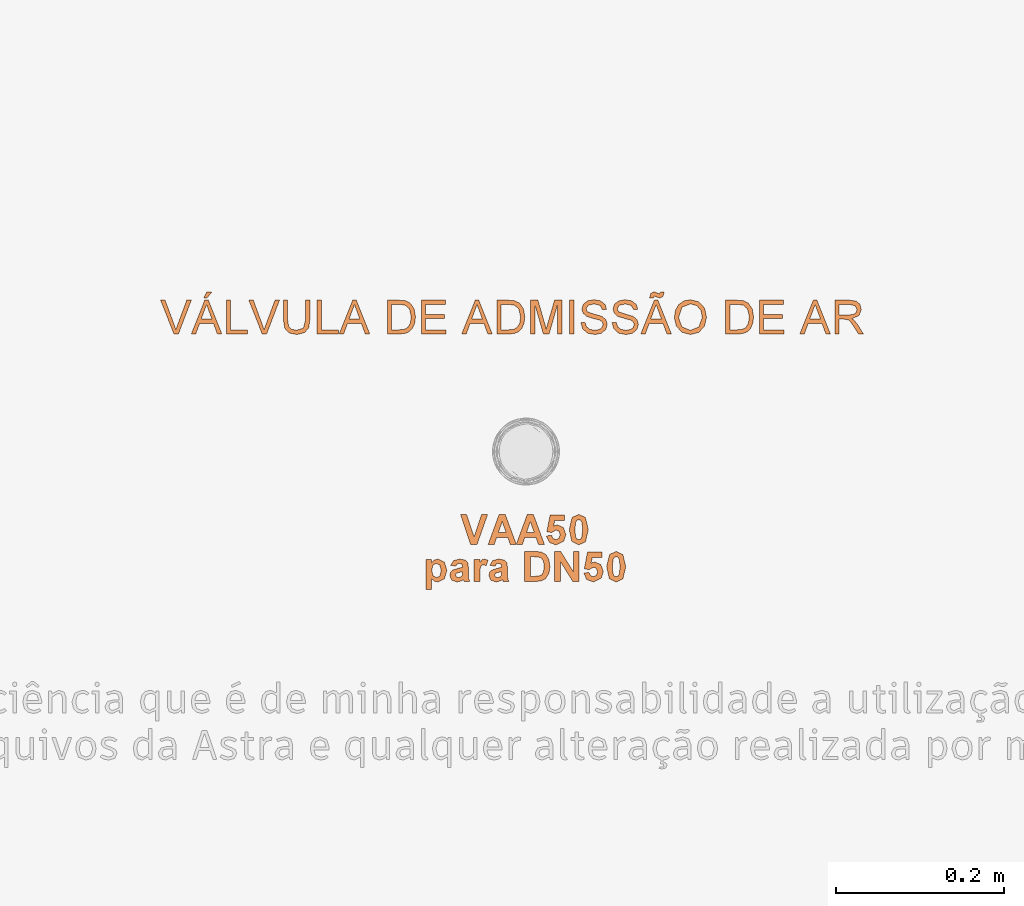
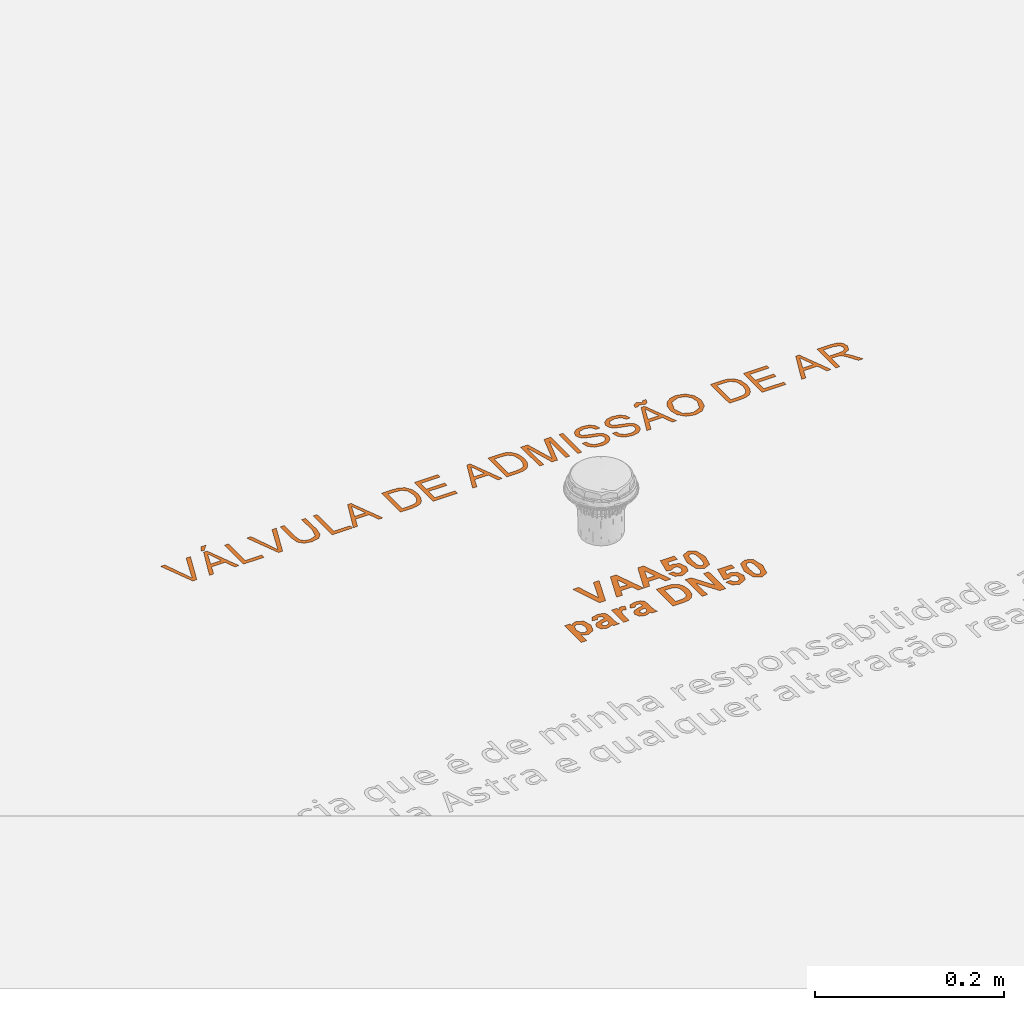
# One storey, part 2 of 2: 2 proxies.
"""IFC2X3 building model written with IfcOpenShell, lengths in millimetres."""

from ifc_helpers import new_model, entity, si_unit, converted_unit, derived_unit, direction, frame, origin, place, context, subcontext, project, spatial, face_set, surface_model, type_object, element, save


model = new_model("IFC2X3")

# Units and contexts
model_context = context("Model", 3, precision=0.01, world=origin(), true_north=direction((6.12303176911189e-17, 1.0)))
body_context = subcontext(model_context, "Body", "Model", "MODEL_VIEW")
ifc_project = project(units=[si_unit("LENGTHUNIT", "METRE", prefix="MILLI"), si_unit("AREAUNIT", "SQUARE_METRE"), si_unit("VOLUMEUNIT", "CUBIC_METRE"), converted_unit("PLANEANGLEUNIT", "DEGREE", entity("IfcRatioMeasure", 0.0174532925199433), si_unit("PLANEANGLEUNIT", "RADIAN"), dimensions=[0, 0, 0, 0, 0, 0, 0]), si_unit("MASSUNIT", "GRAM", prefix="KILO"), derived_unit("MASSDENSITYUNIT", [(si_unit("MASSUNIT", "GRAM", prefix="KILO"), 1), (si_unit("LENGTHUNIT", "METRE"), -3)]), derived_unit("MOMENTOFINERTIAUNIT", [(si_unit("LENGTHUNIT", "METRE"), 4)]), si_unit("TIMEUNIT", "SECOND"), si_unit("FREQUENCYUNIT", "HERTZ"), si_unit("THERMODYNAMICTEMPERATUREUNIT", "DEGREE_CELSIUS"), derived_unit("THERMALTRANSMITTANCEUNIT", [(si_unit("MASSUNIT", "GRAM", prefix="KILO"), 1), (si_unit("THERMODYNAMICTEMPERATUREUNIT", "KELVIN"), -1), (si_unit("TIMEUNIT", "SECOND"), -3)]), derived_unit("VOLUMETRICFLOWRATEUNIT", [(si_unit("LENGTHUNIT", "METRE"), 3), (si_unit("TIMEUNIT", "SECOND"), -1)]), si_unit("ELECTRICCURRENTUNIT", "AMPERE"), si_unit("ELECTRICVOLTAGEUNIT", "VOLT"), si_unit("POWERUNIT", "WATT"), si_unit("FORCEUNIT", "NEWTON", prefix="KILO"), si_unit("ILLUMINANCEUNIT", "LUX"), si_unit("LUMINOUSFLUXUNIT", "LUMEN"), si_unit("LUMINOUSINTENSITYUNIT", "CANDELA"), derived_unit("USERDEFINED", [(si_unit("MASSUNIT", "GRAM", prefix="KILO"), -1), (si_unit("LENGTHUNIT", "METRE"), -2), (si_unit("TIMEUNIT", "SECOND"), 3), (si_unit("LUMINOUSFLUXUNIT", "LUMEN"), 1)]), derived_unit("LINEARVELOCITYUNIT", [(si_unit("LENGTHUNIT", "METRE"), 1), (si_unit("TIMEUNIT", "SECOND"), -1)]), si_unit("PRESSUREUNIT", "PASCAL"), derived_unit("USERDEFINED", [(si_unit("LENGTHUNIT", "METRE"), -2), (si_unit("MASSUNIT", "GRAM", prefix="KILO"), 1), (si_unit("TIMEUNIT", "SECOND"), -2)]), derived_unit("LINEARFORCEUNIT", [(si_unit("MASSUNIT", "GRAM", prefix="KILO"), 1), (si_unit("LENGTHUNIT", "METRE"), 1), (si_unit("TIMEUNIT", "SECOND"), -2), (si_unit("LENGTHUNIT", "METRE"), -1)]), derived_unit("PLANARFORCEUNIT", [(si_unit("MASSUNIT", "GRAM", prefix="KILO"), 1), (si_unit("LENGTHUNIT", "METRE"), 1), (si_unit("TIMEUNIT", "SECOND"), -2), (si_unit("LENGTHUNIT", "METRE"), -2)])], contexts=[model_context])

# Site, building, storey
site_placement = place(None, origin())
site = spatial("IfcSite", under=ifc_project, at=site_placement, Name="Default", CompositionType="ELEMENT")
building_placement = place(site_placement, origin())
building = spatial("IfcBuilding", under=site, at=building_placement, CompositionType="ELEMENT")
storey_placement = place(building_placement, origin())
storey = spatial("IfcBuildingStorey", under=building, at=storey_placement, Name="Vista Principal", CompositionType="ELEMENT", Elevation=0.0)

# Proxies
building_element_proxy_type_1 = type_object("IfcBuildingElementProxyType", Name="Texto do modelo:600mm Arial", PredefinedType="NOTDEFINED")
proxy_1_placement = place(storey_placement, frame((49.7769924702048, 283.731562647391, 0.0)))
element("IfcBuildingElementProxy", 1, at=proxy_1_placement, inside=storey, type_object=building_element_proxy_type_1, Name="Texto do modelo:600mm Arial", ObjectType="Texto do modelo:600mm Arial", context=body_context, shape_type="SurfaceModel", body=[
    surface_model("IfcFaceBasedSurfaceModel", [(53.1296539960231, 53.7047556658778, 0.0), (60.728460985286, 53.7047556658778, 0.0), (73.4019957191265, 89.4138346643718, 0.0), (66.2548660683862, 89.4138346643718, 0.0), (57.2478885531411, 62.7737281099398, 0.0), (48.2674802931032, 89.4138346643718, 0.0), (41.0937813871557, 89.4138346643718, 0.0), (107.410642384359, 53.7047556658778, 0.0), (94.2500046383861, 89.4138346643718, 0.0), (87.0054543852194, 89.4138346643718, 0.0), (73.9688064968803, 53.7047556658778, 0.0), (81.213356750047, 53.7047556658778, 0.0), (83.9765592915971, 61.640106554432, 0.0), (97.4648845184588, 61.640106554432, 0.0), (100.263512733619, 53.7047556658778, 0.0), (95.2862055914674, 67.8750251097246, 0.0), (86.1552382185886, 67.8750251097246, 0.0), (90.6897244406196, 80.9116729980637, 0.0), (143.119721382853, 63.7567905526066, 0.0), (146.728711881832, 56.0162808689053, 0.0), (154.526788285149, 53.1379448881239, 0.0), (163.888022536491, 57.7255696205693, 0.0), (166.358963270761, 65.3686587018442, 0.0), (163.392063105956, 73.7246894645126, 0.0), (156.165225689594, 76.9439975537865, 0.0), (151.781298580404, 75.5535398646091, 0.0), (153.154043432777, 82.0452945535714, 0.0), (164.6585309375, 82.0452945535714, 0.0), (164.6585309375, 88.8470238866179, 0.0), (147.654207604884, 88.8470238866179, 0.0), (143.686532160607, 68.7518105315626, 0.0), (149.584906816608, 67.8750251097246, 0.0), (154.562213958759, 70.709078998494, 0.0), (158.171204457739, 69.3363341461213, 0.0), (159.557233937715, 65.2180995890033, 0.0), (158.06492743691, 60.829744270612, 0.0), (154.420511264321, 59.3728634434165, 0.0), (151.090497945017, 60.7456082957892, 0.0), (149.354639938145, 64.4741604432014, 0.0), (181.662854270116, 89.4138346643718, 0.0), (173.754072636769, 85.782703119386, 0.0), (170.326638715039, 71.3378847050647, 0.0), (173.448526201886, 57.1233331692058, 0.0), (181.662854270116, 53.1379448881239, 0.0), (189.571635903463, 56.7690764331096, 0.0), (192.999069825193, 71.2670333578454, 0.0), (189.589348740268, 85.7295646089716, 0.0), (181.662854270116, 83.1789161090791, 0.0), (183.916812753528, 82.430548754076, 0.0), (185.550821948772, 79.4503639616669, 0.0), (186.197340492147, 71.2670333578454, 0.0), (185.47111418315, 62.8091537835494, 0.0), (183.930097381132, 60.1212307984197, 0.0), (181.662854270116, 59.3728634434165, 0.0), (179.408895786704, 60.1123743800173, 0.0), (177.774886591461, 63.0792745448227, 0.0), (177.128368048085, 71.2670333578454, 0.0), (177.854594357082, 79.7426257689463, 0.0), (179.395611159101, 82.430548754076, 0.0), (0.0, 35.709078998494, 0.0), (0.0, 0.0, 0.0), (6.80172933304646, 0.0, 0.0), (6.80172933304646, 12.7975245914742, 0.0), (10.4151480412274, 9.91033219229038, 0.0), (14.2499772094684, 9.06897244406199, 0.0), (21.8177867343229, 12.6823911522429, 0.0), (24.9396742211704, 22.8229902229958, 0.0), (21.9152073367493, 32.7200377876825, 0.0), (14.5599518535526, 36.2758897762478, 0.0), (10.034322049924, 35.0802732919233, 0.0), (6.80172933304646, 31.9539575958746, 0.0), (6.80172933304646, 35.709078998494, 0.0), (6.80172933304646, 23.1241084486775, 0.0), (8.43573852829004, 29.1420447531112, 0.0), (12.5406884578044, 31.174592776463, 0.0), (16.5305049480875, 29.1021908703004, 0.0), (18.1379448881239, 22.7609952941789, 0.0), (16.5747870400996, 16.1762482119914, 0.0), (12.6646783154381, 14.1702694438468, 0.0), (8.50658987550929, 16.3578047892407, 0.0), (35.7090789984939, 27.7737281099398, 0.0), (37.1438187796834, 30.4217972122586, 0.0), (39.6147595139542, 31.174592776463, 0.0), (42.7986419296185, 30.297807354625, 0.0), (43.6444298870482, 26.640106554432, 0.0), (37.3120907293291, 24.9485306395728, 0.0), (32.1310859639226, 23.3455189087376, 0.0), (29.3368859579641, 20.6974498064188, 0.0), (28.3405388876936, 16.7652000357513, 0.0), (30.5767845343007, 11.2520795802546, 0.0), (36.6921414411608, 9.06897244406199, 0.0), (40.8280888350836, 9.967898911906, 0.0), (44.7072000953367, 11.7967493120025, 0.0), (45.3448622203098, 9.63578322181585, 0.0), (52.1465915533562, 9.63578322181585, 0.0), (50.804844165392, 13.1340684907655, 0.0), (50.4461592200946, 18.1999398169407, 0.0), (50.4461592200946, 26.2415677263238, 0.0), (49.578230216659, 32.4100631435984, 0.0), (46.5847607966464, 35.1821221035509, 0.0), (40.1107189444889, 36.2758897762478, 0.0), (32.8971661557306, 34.4691804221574, 0.0), (29.4741604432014, 28.9073496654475, 0.0), (43.6444298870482, 20.9232884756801, 0.0), (43.3964501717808, 17.3054415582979, 0.0), (41.8908590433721, 15.2684653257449, 0.0), (38.6405534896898, 14.1702694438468, 0.0), (36.1297588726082, 15.1134780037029, 0.0), (35.1422682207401, 17.34972365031, 0.0), (36.3733103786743, 19.519546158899, 0.0), (39.8096007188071, 20.5956009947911, 0.0), (64.0496178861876, 9.63578322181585, 0.0), (64.0496178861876, 17.438287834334, 0.0), (64.6120004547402, 25.9050238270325, 0.0), (66.1530172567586, 28.699223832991, 0.0), (68.5486784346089, 29.4741604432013, 0.0), (71.7015633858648, 28.3671081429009, 0.0), (73.6854011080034, 34.8411499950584, 0.0), (69.514028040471, 36.2758897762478, 0.0), (66.7685383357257, 35.4655274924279, 0.0), (64.0496178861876, 32.0779474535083, 0.0), (64.0496178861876, 35.709078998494, 0.0), (57.2478885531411, 35.709078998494, 0.0), (57.2478885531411, 9.63578322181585, 0.0), (82.1875627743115, 27.7737281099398, 0.0), (83.622302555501, 30.4217972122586, 0.0), (86.0932432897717, 31.174592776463, 0.0), (89.2771257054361, 30.297807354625, 0.0), (90.1229136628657, 26.640106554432, 0.0), (83.7905745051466, 24.9485306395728, 0.0), (78.6095697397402, 23.3455189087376, 0.0), (75.8153697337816, 20.6974498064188, 0.0), (74.8190226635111, 16.7652000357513, 0.0), (77.0552683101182, 11.2520795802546, 0.0), (83.1706252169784, 9.06897244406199, 0.0), (87.3065726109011, 9.967898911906, 0.0), (91.1856838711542, 11.7967493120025, 0.0), (91.8233459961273, 9.63578322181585, 0.0), (98.6250753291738, 9.63578322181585, 0.0), (97.2833279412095, 13.1340684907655, 0.0), (96.9246429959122, 18.1999398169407, 0.0), (96.9246429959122, 26.2415677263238, 0.0), (96.0567139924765, 32.4100631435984, 0.0), (93.0632445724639, 35.1821221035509, 0.0), (86.5892027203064, 36.2758897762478, 0.0), (79.3756499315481, 34.4691804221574, 0.0), (75.9526442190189, 28.9073496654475, 0.0), (90.1229136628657, 20.9232884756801, 0.0), (89.8749339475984, 17.3054415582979, 0.0), (88.3693428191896, 15.2684653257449, 0.0), (85.1190372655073, 14.1702694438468, 0.0), (82.6082426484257, 15.1134780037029, 0.0), (81.6207519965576, 17.34972365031, 0.0), (82.8517941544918, 19.519546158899, 0.0), (86.2880844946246, 20.5956009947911, 0.0), (117.329830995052, 45.3448622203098, 0.0), (117.329830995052, 9.63578322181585, 0.0), (130.942146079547, 9.63578322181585, 0.0), (137.345336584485, 10.3885787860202, 0.0), (142.428920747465, 13.2403455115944, 0.0), (146.272606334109, 19.5461154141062, 0.0), (147.370802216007, 27.1449224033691, 0.0), (146.197326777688, 35.5895173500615, 0.0), (142.774321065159, 41.3727585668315, 0.0), (137.371905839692, 44.6629180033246, 0.0), (130.552463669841, 45.3448622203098, 0.0), (124.131560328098, 39.1099436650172, 0.0), (127.620989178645, 39.1099436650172, 0.0), (133.988754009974, 38.7733997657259, 0.0), (137.580031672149, 37.1261059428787, 0.0), (139.780851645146, 33.7252412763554, 0.0), (140.56907288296, 27.4814663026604, 0.0), (139.780851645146, 21.0517065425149, 0.0), (137.748303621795, 17.6641265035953, 0.0), (134.617559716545, 16.2072456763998, 0.0), (129.92365796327, 15.8707017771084, 0.0), (124.131560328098, 15.8707017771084, 0.0), (153.038909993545, 9.63578322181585, 0.0), (159.840639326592, 9.63578322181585, 0.0), (159.840639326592, 33.3178460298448, 0.0), (174.595432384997, 9.63578322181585, 0.0), (181.946259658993, 9.63578322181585, 0.0), (181.946259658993, 45.3448622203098, 0.0), (175.144530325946, 45.3448622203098, 0.0), (175.144530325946, 21.3085426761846, 0.0), (160.168326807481, 45.3448622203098, 0.0), (153.038909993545, 45.3448622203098, 0.0), (187.614367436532, 19.6878181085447, 0.0), (191.223357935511, 11.9473084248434, 0.0), (199.021434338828, 9.06897244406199, 0.0), (208.38266859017, 13.6565971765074, 0.0), (210.85360932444, 21.2996862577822, 0.0), (207.886709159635, 29.6557170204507, 0.0), (200.659871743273, 32.8750251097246, 0.0), (196.275944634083, 31.4845674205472, 0.0), (197.648689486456, 37.9763221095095, 0.0), (209.153176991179, 37.9763221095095, 0.0), (209.153176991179, 44.7780514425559, 0.0), (192.148853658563, 44.7780514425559, 0.0), (188.181178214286, 24.6828380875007, 0.0), (194.079552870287, 23.8060526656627, 0.0), (199.056860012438, 26.640106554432, 0.0), (202.665850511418, 25.2673617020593, 0.0), (204.051879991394, 21.1491271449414, 0.0), (202.559573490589, 16.7607718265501, 0.0), (198.915157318, 15.3038909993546, 0.0), (195.585143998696, 16.6766358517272, 0.0), (193.849285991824, 20.4051879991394, 0.0), (226.157500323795, 45.3448622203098, 0.0), (218.248718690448, 41.713730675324, 0.0), (214.821284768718, 27.2689122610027, 0.0), (217.943172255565, 13.0543607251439, 0.0), (226.157500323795, 9.06897244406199, 0.0), (234.066281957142, 12.7001039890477, 0.0), (237.493715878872, 27.1980609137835, 0.0), (234.083994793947, 41.6605921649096, 0.0), (226.157500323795, 39.1099436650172, 0.0), (228.411458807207, 38.361576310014, 0.0), (230.045468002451, 35.381391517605, 0.0), (230.691986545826, 27.1980609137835, 0.0), (229.965760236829, 18.7401813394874, 0.0), (228.42474343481, 16.0522583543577, 0.0), (226.157500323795, 15.3038909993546, 0.0), (223.903541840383, 16.0434019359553, 0.0), (222.26953264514, 19.0103021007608, 0.0), (221.623014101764, 27.1980609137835, 0.0), (222.349240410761, 35.6736533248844, 0.0), (223.89025721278, 38.361576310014, 0.0), (140.852478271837, 53.7047556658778, 0.0), (127.691840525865, 89.4138346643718, 0.0), (120.447290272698, 89.4138346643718, 0.0), (107.410642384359, 53.7047556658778, 0.0), (114.655192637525, 53.7047556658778, 0.0), (117.418395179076, 61.640106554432, 0.0), (130.906720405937, 61.640106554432, 0.0), (133.705348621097, 53.7047556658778, 0.0), (128.728041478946, 67.8750251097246, 0.0), (119.597074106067, 67.8750251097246, 0.0), (124.131560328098, 80.9116729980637, 0.0)], [face_set([[[0, 1, 2, 3, 4, 5, 6]]]), face_set([[[7, 8, 9, 10, 11, 12, 13, 14], [15, 16, 17]]]), face_set([[[18, 19, 20, 21, 22, 23, 24, 25, 26, 27, 28, 29, 30, 31, 32, 33, 34, 35, 36, 37, 38]]]), face_set([[[39, 40, 41, 42, 43, 44, 45, 46], [47, 48, 49, 50, 51, 52, 53, 54, 55, 56, 57, 58]]]), face_set([[[59, 60, 61, 62, 63, 64, 65, 66, 67, 68, 69, 70, 71], [72, 73, 74, 75, 76, 77, 78, 79]]]), face_set([[[80, 81, 82, 83, 84, 85, 86, 87, 88, 89, 90, 91, 92, 93, 94, 95, 96, 97, 98, 99, 100, 101, 102], [103, 104, 105, 106, 107, 108, 109, 110]]]), face_set([[[111, 112, 113, 114, 115, 116, 117, 118, 119, 120, 121, 122, 123]]]), face_set([[[124, 125, 126, 127, 128, 129, 130, 131, 132, 133, 134, 135, 136, 137, 138, 139, 140, 141, 142, 143, 144, 145, 146], [147, 148, 149, 150, 151, 152, 153, 154]]]), face_set([[[155, 156, 157, 158, 159, 160, 161, 162, 163, 164, 165], [166, 167, 168, 169, 170, 171, 172, 173, 174, 175, 176]]]), face_set([[[177, 178, 179, 180, 181, 182, 183, 184, 185, 186]]]), face_set([[[187, 188, 189, 190, 191, 192, 193, 194, 195, 196, 197, 198, 199, 200, 201, 202, 203, 204, 205, 206, 207]]]), face_set([[[208, 209, 210, 211, 212, 213, 214, 215], [216, 217, 218, 219, 220, 221, 222, 223, 224, 225, 226, 227]]]), face_set([[[228, 229, 230, 231, 232, 233, 234, 235], [236, 237, 238]]])]),
])
building_element_proxy_type_2 = type_object("IfcBuildingElementProxyType", Name="Texto do modelo:TITULO", PredefinedType="NOTDEFINED")
proxy_2_placement = place(storey_placement, frame((-265.60650014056, 586.880934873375, 0.0)))
element("IfcBuildingElementProxy", 2, at=proxy_2_placement, inside=storey, type_object=building_element_proxy_type_2, Name="Texto do modelo:TITULO", ObjectType="Texto do modelo:TITULO", context=body_context, shape_type="SurfaceModel", body=[
    surface_model("IfcFaceBasedSurfaceModel", [(15.9906040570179, 0.627851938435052, 0.0), (21.1801927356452, 0.627851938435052, 0.0), (36.4938939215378, 40.8103759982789, 0.0), (31.1179116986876, 40.8103759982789, 0.0), (20.3855676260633, 11.8605155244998, 0.0), (18.2469469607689, 5.33674147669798, 0.0), (16.0788957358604, 11.8605155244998, 0.0), (5.37598222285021, 40.8103759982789, 0.0), (0.0, 40.8103759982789, 0.0), (78.206807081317, 0.627851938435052, 0.0), (103.320884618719, 0.627851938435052, 0.0), (103.320884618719, 5.65066744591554, 0.0), (83.2296225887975, 5.65066744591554, 0.0), (83.2296225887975, 40.8103759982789, 0.0), (78.206807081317, 40.8103759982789, 0.0), (120.841877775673, 0.627851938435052, 0.0), (126.0314664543, 0.627851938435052, 0.0), (141.345167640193, 40.8103759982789, 0.0), (135.969185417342, 40.8103759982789, 0.0), (125.236841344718, 11.8605155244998, 0.0), (123.098220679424, 5.33674147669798, 0.0), (120.930169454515, 11.8605155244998, 0.0), (110.227255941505, 40.8103759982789, 0.0), (104.851273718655, 40.8103759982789, 0.0), (172.384597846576, 40.8103759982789, 0.0), (172.384597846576, 17.8054885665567, 0.0), (169.843759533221, 7.66175568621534, 0.0), (161.338327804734, 5.02281550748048, 0.0), (155.432595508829, 6.35700087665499, 0.0), (152.028460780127, 10.1486379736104, 0.0), (151.037631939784, 17.8054885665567, 0.0), (151.037631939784, 40.8103759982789, 0.0), (146.014816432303, 40.8103759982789, 0.0), (146.014816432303, 17.6289052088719, 0.0), (147.54030043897, 7.56855891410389, 0.0), (152.631787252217, 1.94241693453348, 0.0), (161.80921675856, 0.0, 0.0), (171.128893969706, 2.23181743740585, 0.0), (176.043797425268, 8.01982749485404, 0.0), (177.407413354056, 17.6289052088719, 0.0), (177.407413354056, 40.8103759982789, 0.0), (186.197340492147, 0.627851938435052, 0.0), (211.311418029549, 0.627851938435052, 0.0), (211.311418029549, 5.65066744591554, 0.0), (191.220155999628, 5.65066744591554, 0.0), (191.220155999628, 40.8103759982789, 0.0), (186.197340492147, 40.8103759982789, 0.0), (212.282626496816, 0.627851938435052, 0.0), (217.5899374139, 0.627851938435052, 0.0), (222.181104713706, 13.1848907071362, 0.0), (238.730889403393, 13.1848907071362, 0.0), (243.331866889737, 0.627851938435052, 0.0), (248.639177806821, 0.627851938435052, 0.0), (232.599522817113, 40.8103759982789, 0.0), (228.322281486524, 40.8103759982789, 0.0), (224.025419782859, 18.2077062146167, 0.0), (227.959304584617, 28.9498604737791, 0.0), (230.460902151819, 35.7875604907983, 0.0), (233.276425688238, 28.0865640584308, 0.0), (236.896384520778, 18.2077062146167, 0.0), (269.70164830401, 0.627851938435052, 0.0), (284.230534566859, 0.627851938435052, 0.0), (290.690542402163, 1.31456499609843, 0.0), (295.492628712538, 3.3305583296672, 0.0), (299.161638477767, 6.97504262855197, 0.0), (301.908490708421, 12.8268188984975, 0.0), (302.977801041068, 20.934938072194, 0.0), (301.398361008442, 30.4900597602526, 0.0), (296.640420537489, 37.357190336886, 0.0), (290.734688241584, 40.231574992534, 0.0), (283.563441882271, 40.8103759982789, 0.0), (269.70164830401, 40.8103759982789, 0.0), (274.72446381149, 5.65066744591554, 0.0), (274.72446381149, 35.7875604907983, 0.0), (283.475150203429, 35.7875604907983, 0.0), (290.597345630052, 34.9831251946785, 0.0), (295.811459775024, 30.5293005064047, 0.0), (297.954985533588, 21.0134195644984, 0.0), (296.861149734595, 13.4154300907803, 0.0), (293.805276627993, 8.42695023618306, 0.0), (290.077405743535, 6.37662124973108, 0.0), (283.612492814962, 5.65066744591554, 0.0), (309.884172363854, 0.627851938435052, 0.0), (339.393213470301, 0.627851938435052, 0.0), (339.393213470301, 5.65066744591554, 0.0), (314.906987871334, 5.65066744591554, 0.0), (314.906987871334, 18.8355581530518, 0.0), (337.509657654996, 18.8355581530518, 0.0), (337.509657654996, 23.8583736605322, 0.0), (314.906987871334, 23.8583736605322, 0.0), (314.906987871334, 35.7875604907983, 0.0), (338.765361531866, 35.7875604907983, 0.0), (338.765361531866, 40.8103759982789, 0.0), (309.884172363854, 40.8103759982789, 0.0), (357.94427621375, 0.627851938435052, 0.0), (363.251587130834, 0.627851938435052, 0.0), (367.84275443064, 13.1848907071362, 0.0), (384.392539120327, 13.1848907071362, 0.0), (388.993516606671, 0.627851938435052, 0.0), (394.300827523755, 0.627851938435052, 0.0), (378.261172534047, 40.8103759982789, 0.0), (373.983931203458, 40.8103759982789, 0.0), (369.687069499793, 18.2077062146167, 0.0), (373.62095430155, 28.9498604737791, 0.0), (376.122551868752, 35.7875604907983, 0.0), (378.938075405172, 28.0865640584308, 0.0), (382.558034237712, 18.2077062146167, 0.0), (399.666999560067, 0.627851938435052, 0.0), (414.195885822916, 0.627851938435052, 0.0), (420.65589365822, 1.31456499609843, 0.0), (425.457979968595, 3.3305583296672, 0.0), (429.126989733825, 6.97504262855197, 0.0), (431.873841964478, 12.8268188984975, 0.0), (432.943152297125, 20.934938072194, 0.0), (431.363712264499, 30.4900597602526, 0.0), (426.605771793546, 37.357190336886, 0.0), (420.700039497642, 40.231574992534, 0.0), (413.528793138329, 40.8103759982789, 0.0), (399.666999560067, 40.8103759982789, 0.0), (404.689815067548, 5.65066744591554, 0.0), (404.689815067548, 35.7875604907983, 0.0), (413.440501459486, 35.7875604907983, 0.0), (420.562696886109, 34.9831251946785, 0.0), (425.776811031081, 30.5293005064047, 0.0), (427.920336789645, 21.0134195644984, 0.0), (426.826500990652, 13.4154300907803, 0.0), (423.770627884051, 8.42695023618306, 0.0), (420.042756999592, 6.37662124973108, 0.0), (413.577844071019, 5.65066744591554, 0.0), (439.849523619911, 0.627851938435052, 0.0), (444.872339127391, 0.627851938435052, 0.0), (444.872339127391, 35.7875604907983, 0.0), (454.967021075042, 0.627851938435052, 0.0), (461.775290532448, 0.627851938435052, 0.0), (471.869972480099, 35.7875604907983, 0.0), (471.869972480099, 0.627851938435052, 0.0), (476.892787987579, 0.627851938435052, 0.0), (476.892787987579, 40.8103759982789, 0.0), (468.250013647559, 40.8103759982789, 0.0), (460.166419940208, 12.9788767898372, 0.0), (458.371155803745, 6.57282498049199, 0.0), (456.713234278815, 12.4883674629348, 0.0), (448.492297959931, 40.8103759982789, 0.0), (439.849523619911, 40.8103759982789, 0.0), (486.310567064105, 0.627851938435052, 0.0), (491.333382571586, 0.627851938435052, 0.0), (491.333382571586, 40.8103759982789, 0.0), (486.310567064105, 40.8103759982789, 0.0), (499.495457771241, 14.4405945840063, 0.0), (501.66350899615, 6.76902871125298, 0.0), (507.33870190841, 1.68735208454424, 0.0), (516.310117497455, 0.0, 0.0), (523.908106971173, 1.56472475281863, 0.0), (529.087885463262, 5.94987813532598, 0.0), (530.888054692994, 11.9586173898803, 0.0), (529.323329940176, 17.6387153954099, 0.0), (524.462382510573, 21.7099428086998, 0.0), (515.574353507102, 24.2311607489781, 0.0), (507.373037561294, 27.0368740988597, 0.0), (505.773977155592, 30.5194903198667, 0.0), (508.030320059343, 34.688819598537, 0.0), (515.221186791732, 36.4154124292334, 0.0), (522.392433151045, 34.6691992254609, 0.0), (525.237387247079, 29.5090411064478, 0.0), (530.260202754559, 29.5090411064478, 0.0), (528.268734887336, 35.7973706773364, 0.0), (522.97123415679, 40.0059407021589, 0.0), (515.024983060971, 41.4382279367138, 0.0), (507.579051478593, 40.0697069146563, 0.0), (502.492469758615, 36.0573406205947, 0.0), (500.751161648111, 30.3723375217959, 0.0), (502.158923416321, 25.3789525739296, 0.0), (506.431259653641, 21.6412715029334, 0.0), (514.303934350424, 19.1641994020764, 0.0), (521.617428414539, 17.246307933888, 0.0), (525.03137332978, 14.9654395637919, 0.0), (525.865239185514, 11.8310849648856, 0.0), (524.751783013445, 8.46128588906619, 0.0), (521.36236356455, 5.9400679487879, 0.0), (516.113913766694, 5.02281550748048, 0.0), (510.090459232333, 6.23437354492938, 0.0), (506.1369540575, 9.41287398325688, 0.0), (504.518273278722, 14.4405945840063, 0.0), (536.53872213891, 14.4405945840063, 0.0), (538.706773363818, 6.76902871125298, 0.0), (544.381966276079, 1.68735208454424, 0.0), (553.353381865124, 0.0, 0.0), (560.951371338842, 1.56472475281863, 0.0), (566.131149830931, 5.94987813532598, 0.0), (567.931319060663, 11.9586173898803, 0.0), (566.366594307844, 17.6387153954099, 0.0), (561.505646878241, 21.7099428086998, 0.0), (552.61761787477, 24.2311607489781, 0.0), (544.416301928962, 27.0368740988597, 0.0), (542.81724152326, 30.5194903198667, 0.0), (545.073584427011, 34.688819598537, 0.0), (552.2644511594, 36.4154124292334, 0.0), (559.435697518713, 34.6691992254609, 0.0), (562.280651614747, 29.5090411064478, 0.0), (567.303467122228, 29.5090411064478, 0.0), (565.311999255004, 35.7973706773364, 0.0), (560.014498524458, 40.0059407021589, 0.0), (552.068247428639, 41.4382279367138, 0.0), (544.622315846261, 40.0697069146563, 0.0), (539.535734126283, 36.0573406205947, 0.0), (537.79442601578, 30.3723375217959, 0.0), (539.20218778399, 25.3789525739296, 0.0), (543.47452402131, 21.6412715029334, 0.0), (551.347198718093, 19.1641994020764, 0.0), (558.660692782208, 17.246307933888, 0.0), (562.074637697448, 14.9654395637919, 0.0), (562.908503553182, 11.8310849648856, 0.0), (561.795047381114, 8.46128588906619, 0.0), (558.405627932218, 5.9400679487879, 0.0), (553.157178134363, 5.02281550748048, 0.0), (547.133723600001, 6.23437354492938, 0.0), (543.180218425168, 9.41287398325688, 0.0), (541.56153764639, 14.4405945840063, 0.0), (570.786083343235, 0.627851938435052, 0.0), (576.093394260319, 0.627851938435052, 0.0), (580.684561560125, 13.1848907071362, 0.0), (597.234346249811, 13.1848907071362, 0.0), (601.835323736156, 0.627851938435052, 0.0), (607.14263465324, 0.627851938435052, 0.0), (591.102979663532, 40.8103759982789, 0.0), (586.825738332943, 40.8103759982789, 0.0), (582.528876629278, 18.2077062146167, 0.0), (586.462761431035, 28.9498604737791, 0.0), (588.964358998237, 35.7875604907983, 0.0), (591.779882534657, 28.0865640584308, 0.0), (595.399841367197, 18.2077062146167, 0.0), (610.625250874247, 20.1893638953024, 0.0), (612.92083452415, 10.1878787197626, 0.0), (619.670242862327, 2.73213695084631, 0.0), (629.774734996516, 0.0, 0.0), (639.501534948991, 2.47216700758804, 0.0), (646.466767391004, 9.75132541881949, 0.0), (648.924219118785, 20.6504426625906, 0.0), (646.58939472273, 31.4024071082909, 0.0), (639.800745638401, 38.789477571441, 0.0), (629.80416555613, 41.4382279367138, 0.0), (622.115431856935, 40.0280136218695, 0.0), (615.981612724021, 35.7973706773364, 0.0), (611.96434133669, 29.0749403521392, 0.0), (615.648066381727, 20.1403129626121, 0.0), (619.837016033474, 32.6630160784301, 0.0), (629.833596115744, 36.4154124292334, 0.0), (637.205951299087, 34.468090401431, 0.0), (642.194431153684, 28.9792910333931, 0.0), (643.901403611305, 20.6896834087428, 0.0), (639.913562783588, 9.10385310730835, 0.0), (629.745304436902, 5.02281550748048, 0.0), (619.665337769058, 9.06461236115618, 0.0), (671.526888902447, 0.627851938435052, 0.0), (686.055775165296, 0.627851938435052, 0.0), (692.515783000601, 1.31456499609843, 0.0), (697.317869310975, 3.3305583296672, 0.0), (700.986879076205, 6.97504262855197, 0.0), (703.733731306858, 12.8268188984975, 0.0), (704.803041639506, 20.934938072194, 0.0), (703.22360160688, 30.4900597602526, 0.0), (698.465661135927, 37.357190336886, 0.0), (692.559928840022, 40.231574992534, 0.0), (685.388682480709, 40.8103759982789, 0.0), (671.526888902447, 40.8103759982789, 0.0), (676.549704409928, 5.65066744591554, 0.0), (676.549704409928, 35.7875604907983, 0.0), (685.300390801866, 35.7875604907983, 0.0), (692.422586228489, 34.9831251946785, 0.0), (697.636700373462, 30.5293005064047, 0.0), (699.780226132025, 21.0134195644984, 0.0), (698.686390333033, 13.4154300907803, 0.0), (695.630517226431, 8.42695023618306, 0.0), (691.902646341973, 6.37662124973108, 0.0), (685.437733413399, 5.65066744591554, 0.0), (711.709412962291, 0.627851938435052, 0.0), (741.218454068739, 0.627851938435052, 0.0), (741.218454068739, 5.65066744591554, 0.0), (716.732228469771, 5.65066744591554, 0.0), (716.732228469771, 18.8355581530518, 0.0), (739.334898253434, 18.8355581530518, 0.0), (739.334898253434, 23.8583736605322, 0.0), (716.732228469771, 23.8583736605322, 0.0), (716.732228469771, 35.7875604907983, 0.0), (740.590602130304, 35.7875604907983, 0.0), (740.590602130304, 40.8103759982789, 0.0), (711.709412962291, 40.8103759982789, 0.0), (759.769516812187, 0.627851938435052, 0.0), (765.076827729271, 0.627851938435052, 0.0), (769.667995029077, 13.1848907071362, 0.0), (786.217779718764, 13.1848907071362, 0.0), (790.818757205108, 0.627851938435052, 0.0), (796.126068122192, 0.627851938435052, 0.0), (780.086413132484, 40.8103759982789, 0.0), (775.809171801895, 40.8103759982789, 0.0), (771.512310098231, 18.2077062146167, 0.0), (775.446194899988, 28.9498604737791, 0.0), (777.94779246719, 35.7875604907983, 0.0), (780.763316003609, 28.0865640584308, 0.0), (784.383274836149, 18.2077062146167, 0.0), (801.492240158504, 0.627851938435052, 0.0), (806.515055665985, 0.627851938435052, 0.0), (806.515055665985, 18.2077062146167, 0.0), (812.577750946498, 18.2077062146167, 0.0), (815.491376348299, 18.0311228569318, 0.0), (817.880156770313, 17.0746296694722, 0.0), (820.533812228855, 14.4700251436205, 0.0), (824.310734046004, 8.95670030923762, 0.0), (829.539563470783, 0.627851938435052, 0.0), (835.376624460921, 0.627851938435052, 0.0), (828.676267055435, 11.5171589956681, 0.0), (824.605039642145, 16.6871273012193, 0.0), (821.750275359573, 18.8355581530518, 0.0), (830.162510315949, 22.573239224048, 0.0), (832.884837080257, 29.8131568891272, 0.0), (831.241630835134, 35.8905674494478, 0.0), (826.846667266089, 39.7263503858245, 0.0), (818.807219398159, 40.8103759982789, 0.0), (801.492240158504, 40.8103759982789, 0.0), (806.515055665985, 23.2305217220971, 0.0), (806.515055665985, 35.7875604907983, 0.0), (819.023043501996, 35.7875604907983, 0.0), (825.738116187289, 34.0511574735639, 0.0), (827.862021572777, 29.6267633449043, 0.0), (826.748565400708, 26.2177235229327, 0.0), (823.491583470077, 23.9417602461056, 0.0), (817.757529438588, 23.2305217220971, 0.0), (581.116209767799, 43.3217837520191, 0.0), (585.511173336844, 43.3217837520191, 0.0), (587.159284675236, 45.8331915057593, 0.0), (589.278284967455, 44.8521728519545, 0.0), (593.251410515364, 43.3217837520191, 0.0), (597.101908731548, 45.2053395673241, 0.0), (598.696064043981, 50.8560070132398, 0.0), (594.301100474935, 50.8560070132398, 0.0), (592.721660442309, 48.3445992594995, 0.0), (590.690951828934, 49.2373262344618, 0.0), (586.668775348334, 50.8560070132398, 0.0), (582.676029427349, 48.8056780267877, 0.0), (36.4840837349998, 0.627851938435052, 0.0), (41.7913946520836, 0.627851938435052, 0.0), (46.38256195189, 13.1848907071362, 0.0), (62.9323466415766, 13.1848907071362, 0.0), (67.533324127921, 0.627851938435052, 0.0), (72.8406350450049, 0.627851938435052, 0.0), (56.8009800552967, 40.8103759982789, 0.0), (52.5237387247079, 40.8103759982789, 0.0), (48.226877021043, 18.2077062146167, 0.0), (52.1607618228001, 28.9498604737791, 0.0), (54.6623593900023, 35.7875604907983, 0.0), (57.477882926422, 28.0865640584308, 0.0), (61.0978417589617, 18.2077062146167, 0.0), (51.2091737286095, 43.3217837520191, 0.0), (54.9762853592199, 43.3217837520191, 0.0), (61.2548047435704, 50.8560070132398, 0.0), (54.9762853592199, 50.8560070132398, 0.0)], [face_set([[[0, 1, 2, 3, 4, 5, 6, 7, 8]]]), face_set([[[9, 10, 11, 12, 13, 14]]]), face_set([[[15, 16, 17, 18, 19, 20, 21, 22, 23]]]), face_set([[[24, 25, 26, 27, 28, 29, 30, 31, 32, 33, 34, 35, 36, 37, 38, 39, 40]]]), face_set([[[41, 42, 43, 44, 45, 46]]]), face_set([[[47, 48, 49, 50, 51, 52, 53, 54], [55, 56, 57, 58, 59]]]), face_set([[[60, 61, 62, 63, 64, 65, 66, 67, 68, 69, 70, 71], [72, 73, 74, 75, 76, 77, 78, 79, 80, 81]]]), face_set([[[82, 83, 84, 85, 86, 87, 88, 89, 90, 91, 92, 93]]]), face_set([[[94, 95, 96, 97, 98, 99, 100, 101], [102, 103, 104, 105, 106]]]), face_set([[[107, 108, 109, 110, 111, 112, 113, 114, 115, 116, 117, 118], [119, 120, 121, 122, 123, 124, 125, 126, 127, 128]]]), face_set([[[129, 130, 131, 132, 133, 134, 135, 136, 137, 138, 139, 140, 141, 142, 143]]]), face_set([[[144, 145, 146, 147]]]), face_set([[[148, 149, 150, 151, 152, 153, 154, 155, 156, 157, 158, 159, 160, 161, 162, 163, 164, 165, 166, 167, 168, 169, 170, 171, 172, 173, 174, 175, 176, 177, 178, 179, 180, 181, 182]]]), face_set([[[183, 184, 185, 186, 187, 188, 189, 190, 191, 192, 193, 194, 195, 196, 197, 198, 199, 200, 201, 202, 203, 204, 205, 206, 207, 208, 209, 210, 211, 212, 213, 214, 215, 216, 217]]]), face_set([[[218, 219, 220, 221, 222, 223, 224, 225], [226, 227, 228, 229, 230]]]), face_set([[[231, 232, 233, 234, 235, 236, 237, 238, 239, 240, 241, 242, 243], [244, 245, 246, 247, 248, 249, 250, 251, 252]]]), face_set([[[253, 254, 255, 256, 257, 258, 259, 260, 261, 262, 263, 264], [265, 266, 267, 268, 269, 270, 271, 272, 273, 274]]]), face_set([[[275, 276, 277, 278, 279, 280, 281, 282, 283, 284, 285, 286]]]), face_set([[[287, 288, 289, 290, 291, 292, 293, 294], [295, 296, 297, 298, 299]]]), face_set([[[300, 301, 302, 303, 304, 305, 306, 307, 308, 309, 310, 311, 312, 313, 314, 315, 316, 317, 318], [319, 320, 321, 322, 323, 324, 325, 326]]]), face_set([[[327, 328, 329, 330, 331, 332, 333, 334, 335, 336, 337, 338]]]), face_set([[[339, 340, 341, 342, 343, 344, 345, 346], [347, 348, 349, 350, 351]]]), face_set([[[352, 353, 354, 355]]])]),
])

save(model, "model.ifc")
